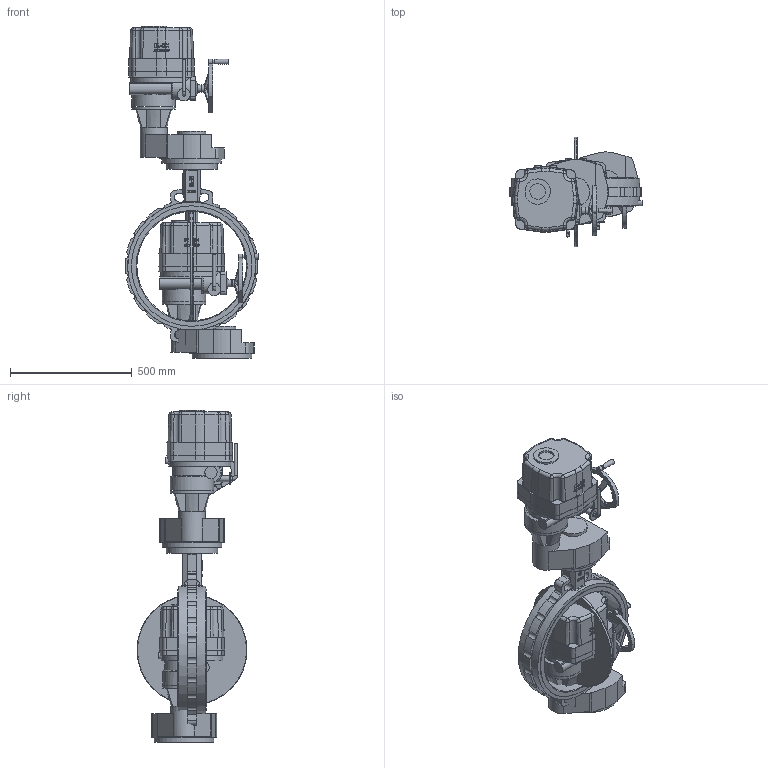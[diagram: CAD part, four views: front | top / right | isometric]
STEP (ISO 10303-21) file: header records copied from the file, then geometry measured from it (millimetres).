
FILE_DESCRIPTION( ( 'Unknown' ), '1' );
FILE_NAME( 'R:/ECCUA/ROOTSI BPS 3D vidinad/Poordklapid Wafer type/Butterfly valve(wafer) with electric actuator BPS/STEP formaat/BPS 2303450E butterfly valve DN450.stp', 'Unknown', ( 'Unknown' ), ( 'Unknown' ), 'PSStep 10.1', 'Unknown', ' ' );
FILE_SCHEMA( ( 'AUTOMOTIVE_DESIGN { 1 0 10303 214 1 1 1 1 }' ) );
Length unit declared in the file: millimetre
Products named in the file (4): Assem1; Butterfly valve wafer type DN450 BPS; BPS 80052000-3000 electric actuator DN450-600
Bounding box: 547.31 x 450.43 x 1363 mm (x, y, z)
Volume: 73674788.9 mm3; surface area: 3944189 mm2
Topology: 6 solids, 6 shells, 1288 faces, 3428 edges, 2224 vertices
Faces by surface type: plane 464, cylinder 400, bspline 150, cone 116, extrusion 112, torus 30, sphere 16
Full cylindrical faces by diameter (mm): 10.106 x16, 13 x4, 13.835 x16, 15 x2, 17.294 x16, 18 x10, 22 x8, 25 x4, 27 x4, 30 x4, 45 x2, 52 x2, 64 x2, 65 x2, 104 x2, 109.808 x2, 115 x2, 159 x2, 178 x4, 210 x2, 245 x2, 450 x2, 495 x4, 525 x4
Entity records: 35744 total; most frequent: CARTESIAN_POINT 15811, ORIENTED_EDGE 3160, DIRECTION 2687, EDGE_CURVE 1580, VERTEX_POINT 1082, AXIS2_PLACEMENT_3D 1012, EDGE_LOOP 808, FACE_OUTER_BOUND 710
